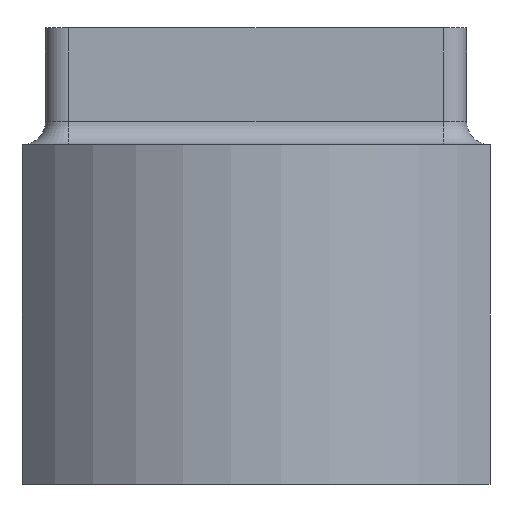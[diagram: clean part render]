
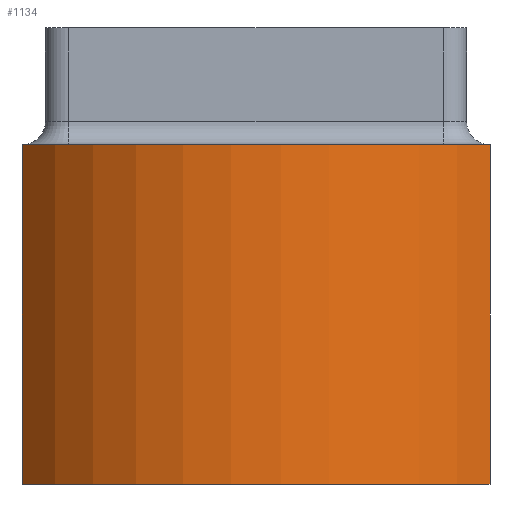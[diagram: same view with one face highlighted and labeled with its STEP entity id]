
A CAD part, front view. The second image highlights one B-rep face of the part: STEP entity #1134.
In plain terms, the highlighted cylindrical face has radius 12.5 mm (diameter 25 mm), a partial arc.
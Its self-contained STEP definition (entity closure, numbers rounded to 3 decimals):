
#21 = EDGE_LOOP ( 'NONE', ( #921, #1503, #905, #963 ) ) ;
#75 = VERTEX_POINT ( 'NONE', #1626 ) ;
#104 = DIRECTION ( 'NONE',  ( 0., 0., -1. ) ) ;
#200 = VECTOR ( 'NONE', #104, 1000. ) ;
#258 = CARTESIAN_POINT ( 'NONE',  ( 10., -7.5, -7. ) ) ;
#260 = AXIS2_PLACEMENT_3D ( 'NONE', #1149, #283, #1560 ) ;
#283 = DIRECTION ( 'NONE',  ( 0., 0., 1. ) ) ;
#292 = VERTEX_POINT ( 'NONE', #561 ) ;
#469 = CIRCLE ( 'NONE', #768, 12.5 ) ;
#477 = CARTESIAN_POINT ( 'NONE',  ( 0., 0., -7. ) ) ;
#519 = CARTESIAN_POINT ( 'NONE',  ( 10., -7.5, -7. ) ) ;
#561 = CARTESIAN_POINT ( 'NONE',  ( -10., -7.5, 7.5 ) ) ;
#634 = DIRECTION ( 'NONE',  ( 1., 0., 0. ) ) ;
#766 = AXIS2_PLACEMENT_3D ( 'NONE', #477, #1082, #634 ) ;
#768 = AXIS2_PLACEMENT_3D ( 'NONE', #1370, #949, #1100 ) ;
#773 = EDGE_CURVE ( 'NONE', #1651, #1705, #1262, .T. ) ;
#810 = CARTESIAN_POINT ( 'NONE',  ( -10., -7.5, -7. ) ) ;
#899 = FACE_OUTER_BOUND ( 'NONE', #21, .T. ) ;
#905 = ORIENTED_EDGE ( 'NONE', *, *, #773, .F. ) ;
#921 = ORIENTED_EDGE ( 'NONE', *, *, #1246, .F. ) ;
#949 = DIRECTION ( 'NONE',  ( 0., 0., 1. ) ) ;
#963 = ORIENTED_EDGE ( 'NONE', *, *, #1419, .F. ) ;
#1077 = CIRCLE ( 'NONE', #260, 12.5 ) ;
#1082 = DIRECTION ( 'NONE',  ( 0., 0., 1. ) ) ;
#1100 = DIRECTION ( 'NONE',  ( 1., 0., 0. ) ) ;
#1134 = ADVANCED_FACE ( 'NONE', ( #899 ), #1479, .T. ) ;
#1142 = LINE ( 'NONE', #810, #1311 ) ;
#1149 = CARTESIAN_POINT ( 'NONE',  ( 0., 0., 7.5 ) ) ;
#1246 = EDGE_CURVE ( 'NONE', #75, #292, #1142, .T. ) ;
#1262 = LINE ( 'NONE', #519, #200 ) ;
#1311 = VECTOR ( 'NONE', #1630, 1000. ) ;
#1370 = CARTESIAN_POINT ( 'NONE',  ( 0., 0., -7. ) ) ;
#1419 = EDGE_CURVE ( 'NONE', #292, #1651, #1077, .T. ) ;
#1479 = CYLINDRICAL_SURFACE ( 'NONE', #766, 12.5 ) ;
#1503 = ORIENTED_EDGE ( 'NONE', *, *, #1641, .T. ) ;
#1560 = DIRECTION ( 'NONE',  ( 1., 0., 0. ) ) ;
#1626 = CARTESIAN_POINT ( 'NONE',  ( -10., -7.5, -7. ) ) ;
#1630 = DIRECTION ( 'NONE',  ( 0., 0., 1. ) ) ;
#1641 = EDGE_CURVE ( 'NONE', #75, #1705, #469, .T. ) ;
#1642 = CARTESIAN_POINT ( 'NONE',  ( 10., -7.5, 7.5 ) ) ;
#1651 = VERTEX_POINT ( 'NONE', #1642 ) ;
#1705 = VERTEX_POINT ( 'NONE', #258 ) ;
